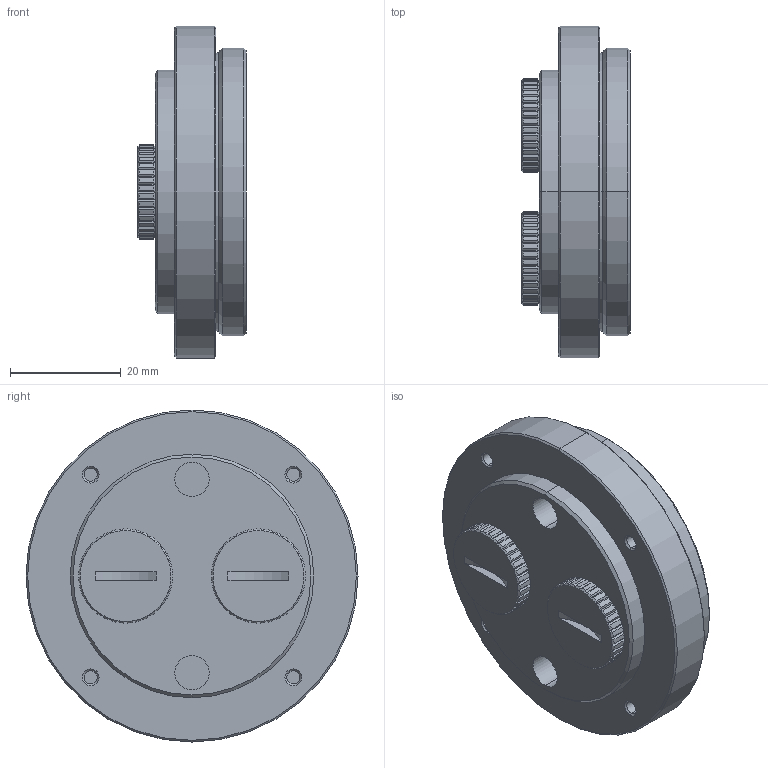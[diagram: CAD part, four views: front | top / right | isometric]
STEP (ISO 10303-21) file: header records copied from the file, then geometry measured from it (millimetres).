
FILE_DESCRIPTION (( 'STEP AP203' ), '1' );
FILE_NAME ('COV-TKTOP2 assy.STEP', '2025-10-08T08:20:07', ( 'admin' ), ( '' ), 'SwSTEP 2.0', 'SolidWorks 2012', '' );
FILE_SCHEMA (( 'CONFIG_CONTROL_DESIGN' ));
Length unit declared in the file: millimetre
Products named in the file (3): COV-TKTOP2 assy; COV-TKTOP2-AT; SCR-CP003PG
Assembly tree (3 placements, depth 2):
  COV-TKTOP2 assy
    COV-TKTOP2-AT
    SCR-CP003PG  x2
Bounding box: 19.65 x 60 x 60 mm (x, y, z)
Volume: 30678.3 mm3; surface area: 12127.3 mm2
Topology: 3 solids, 3 shells, 478 faces, 1022 edges, 570 vertices
Faces by surface type: cone 196, plane 172, cylinder 110
Entity records: 7659 total; most frequent: CARTESIAN_POINT 1614, DIRECTION 1242, ORIENTED_EDGE 1156, EDGE_CURVE 578, AXIS2_PLACEMENT_3D 530, VERTEX_POINT 326, EDGE_LOOP 292, ADVANCED_FACE 272
